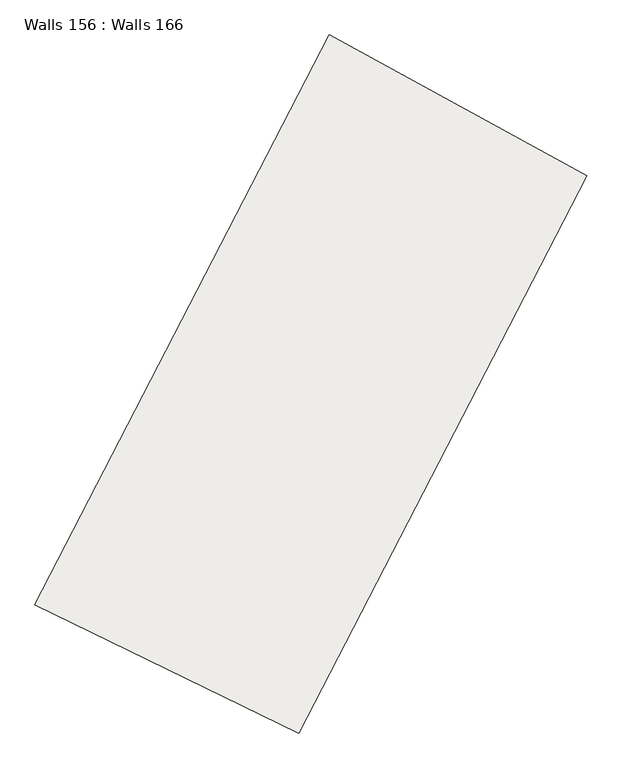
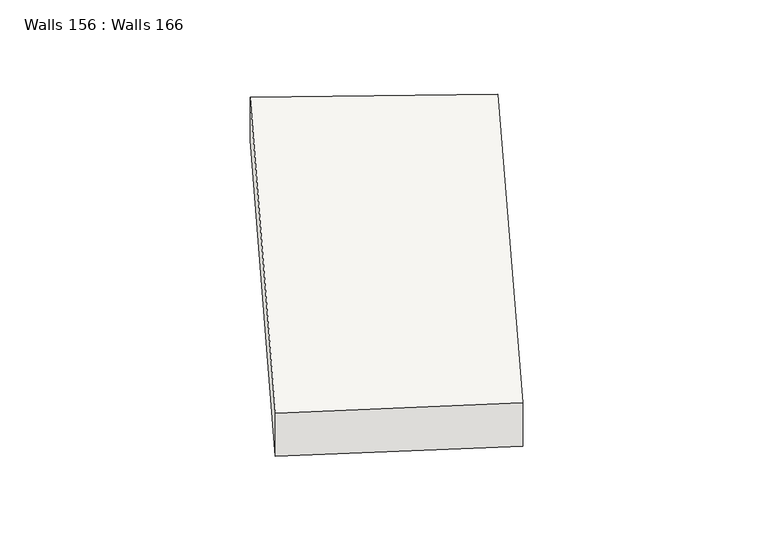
"""IFC4 building model written with IfcOpenShell, lengths in millimetres: slab geometry, Walls 156 : Walls 166."""

from ifc_helpers import new_model, si_unit, frame, origin, place, context, project, spatial, source, transform, mapped, element, save
from ifc_brep_helpers import plane_surface, spline_curve, spline_surface, advanced_brep


def walls_156_walls_166_e8e2088c(model_context):
    return source(origin(), model_context, "Body", "AdvancedBrep", [
        advanced_brep(
        [(202715.4856548, 96201.8765551, 641640.0), (206312.758693, 94452.8421054, 641640.0), (206312.758693, 94452.8421054, 642490.0), (202715.4856548, 96201.8765551, 642490.0), (206724.9923501, 103965.4633987, 641750.0), (206724.9923501, 103965.4633987, 642600.0), (210233.616028, 102044.6406877, 642600.0), (210233.616028, 102044.6406877, 641750.0)],
        [
            (0, 1),
            (1, 2),
            (2, 3),
            (3, 0),
            (4, 5),
            (5, 6),
            (6, 7),
            (7, 4),
            (7, 1, spline_curve(3, [(210233.616028, 102044.6406877, 641750.0), (208865.762062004, 99546.118868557, 641713.333333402), (207558.30072155, 97014.534015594, 641676.666666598), (206312.758693, 94452.8421054, 641640.0)], [4, 4], [0.0, 28.354974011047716])),
            (0, 4, spline_curve(3, [(202715.4856548, 96201.8765551, 641640.0), (203989.187641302, 98821.533735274, 641676.666666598), (205326.210260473, 101410.40364604, 641713.333333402), (206724.9923501, 103965.4633987, 641750.0)], [4, 4], [0.0, 28.354974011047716])),
            (5, 3, spline_curve(3, [(206724.9923501, 103965.4633987, 642600.0), (205326.210260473, 101410.40364604, 642563.333333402), (203989.187641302, 98821.533735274, 642526.666666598), (202715.4856548, 96201.8765551, 642490.0)], [4, 4], [0.0, 28.354974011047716])),
            (2, 6, spline_curve(3, [(206312.758693, 94452.8421054, 642490.0), (207558.30072155, 97014.534015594, 642526.666666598), (208865.762062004, 99546.118868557, 642563.333333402), (210233.616028, 102044.6406877, 642600.0)], [4, 4], [0.0, 28.354974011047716])),
        ],
        [
            plane_surface(frame((204514.1221739, 95327.3593303, 642065.0), z_axis=(-0.4372655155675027, -0.8993324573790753, 0.0), x_axis=(0.0, 0.0, 1.0))),
            plane_surface(frame((208479.3041891, 103005.0520432, 642175.0), z_axis=(0.4802056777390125, 0.8771559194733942, 0.0), x_axis=(0.8771559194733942, -0.4802056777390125, 0.0))),
            spline_surface(3, 3, [[(206724.9923501, 103965.4633987, 641750.0), (205326.210260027, 101410.403645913, 641713.333333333), (203989.187641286, 98821.533734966, 641676.666666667), (202715.4856548, 96201.8765551, 641640.0)], [(207894.533576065, 103325.189161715, 641750.0), (206506.060860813, 100788.975386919, 641713.333333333), (205178.892001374, 98219.200495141, 641676.666666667), (203914.576667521, 95618.865071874, 641640.0)], [(209064.074802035, 102684.914924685, 641750.0), (207685.911461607, 100167.54712788, 641713.333333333), (206368.596361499, 97616.867255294, 641676.666666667), (205113.667680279, 95035.853588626, 641640.0)], [(210233.616028, 102044.6406877, 641750.0), (208865.762062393, 99546.118868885, 641713.333333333), (207558.300721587, 97014.534015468, 641676.666666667), (206312.758693, 94452.8421054, 641640.0)]], [4, 4], [4, 4], [0.0, 13.123255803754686], [0.0, 28.354974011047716]),
            spline_surface(3, 3, [[(210233.616028, 102044.6406877, 642600.0), (208865.762062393, 99546.118868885, 642563.333333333), (207558.300721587, 97014.534015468, 642526.666666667), (206312.758693, 94452.8421054, 642490.0)], [(209064.074802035, 102684.914924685, 642600.0), (207685.911461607, 100167.54712788, 642563.333333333), (206368.596361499, 97616.867255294, 642526.666666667), (205113.667680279, 95035.853588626, 642490.0)], [(207894.533576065, 103325.189161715, 642600.0), (206506.060860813, 100788.975386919, 642563.333333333), (205178.892001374, 98219.200495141, 642526.666666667), (203914.576667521, 95618.865071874, 642490.0)], [(206724.9923501, 103965.4633987, 642600.0), (205326.210260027, 101410.403645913, 642563.333333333), (203989.187641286, 98821.533734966, 642526.666666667), (202715.4856548, 96201.8765551, 642490.0)]], [4, 4], [4, 4], [0.0, 13.123255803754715], [0.0, 28.354974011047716]),
            spline_surface(3, 3, [[(206724.9923501, 103965.4633987, 642600.0), (205326.210260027, 101410.403645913, 642563.333333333), (203989.187641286, 98821.533734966, 642526.666666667), (202715.4856548, 96201.8765551, 642490.0)], [(206724.9923501, 103965.4633987, 642316.666666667), (205326.210260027, 101410.403645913, 642280.0), (203989.187641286, 98821.533734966, 642243.333333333), (202715.4856548, 96201.8765551, 642206.666666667)], [(206724.9923501, 103965.4633987, 642033.333333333), (205326.210260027, 101410.403645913, 641996.666666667), (203989.187641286, 98821.533734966, 641960.0), (202715.4856548, 96201.8765551, 641923.333333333)], [(206724.9923501, 103965.4633987, 641750.0), (205326.210260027, 101410.403645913, 641713.333333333), (203989.187641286, 98821.533734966, 641676.666666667), (202715.4856548, 96201.8765551, 641640.0)]], [4, 4], [4, 4], [0.0, 2.7887139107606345], [0.0, 28.67209012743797]),
            spline_surface(3, 3, [[(210233.616028, 102044.6406877, 641750.0), (208865.762062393, 99546.118868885, 641713.333333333), (207558.300721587, 97014.534015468, 641676.666666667), (206312.758693, 94452.8421054, 641640.0)], [(210233.616028, 102044.6406877, 642033.333333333), (208865.762062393, 99546.118868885, 641996.666666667), (207558.300721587, 97014.534015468, 641960.0), (206312.758693, 94452.8421054, 641923.333333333)], [(210233.616028, 102044.6406877, 642316.666666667), (208865.762062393, 99546.118868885, 642280.0), (207558.300721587, 97014.534015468, 642243.333333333), (206312.758693, 94452.8421054, 642206.666666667)], [(210233.616028, 102044.6406877, 642600.0), (208865.762062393, 99546.118868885, 642563.333333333), (207558.300721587, 97014.534015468, 642526.666666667), (206312.758693, 94452.8421054, 642490.0)]], [4, 4], [4, 4], [0.0, 2.7887139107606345], [0.0, 28.037858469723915]),
        ],
        [
            (0, [[1, 2, 3, 4]]),
            (1, [[5, 6, 7, 8]]),
            (2, [[-8, 9, -1, 10]]),
            (3, [[-6, 11, -3, 12]]),
            (4, [[-5, -10, -4, -11]]),
            (5, [[-7, -12, -2, -9]]),
        ],
    ),
    ])


if __name__ == "__main__":
    model = new_model("IFC4")
    model_context = context("Model", 3, world=origin())
    ifc_project = project(units=[si_unit("LENGTHUNIT", "METRE", prefix="MILLI")], contexts=[model_context])
    site = spatial("IfcSite", under=ifc_project)
    building = spatial("IfcBuilding", under=site)
    placement = place(None, origin())
    walls_156_walls_166_shape = walls_156_walls_166_e8e2088c(model_context)
    element("IfcSlab", 1, ObjectType="Walls 156 : Walls 166", at=placement, inside=building, context=model_context, shape_type="MappedRepresentation", body=[
        mapped(walls_156_walls_166_shape, transform((0.0, 0.0, 0.0), x_axis=(1.0, 0.0, 0.0), y_axis=(0.0, 1.0, 0.0), z_axis=(0.0, 0.0, 1.0))),
    ])
    save(model, "model.ifc")
